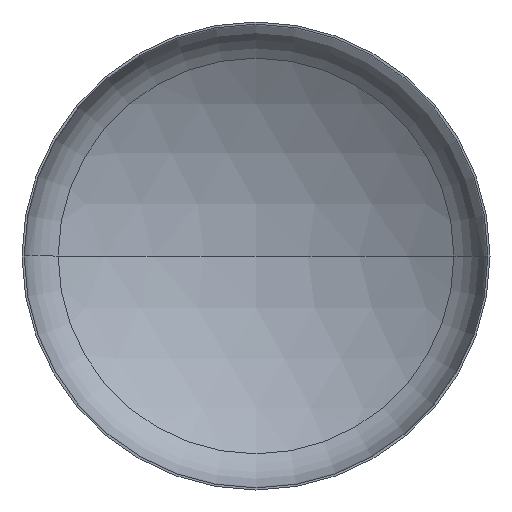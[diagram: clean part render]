
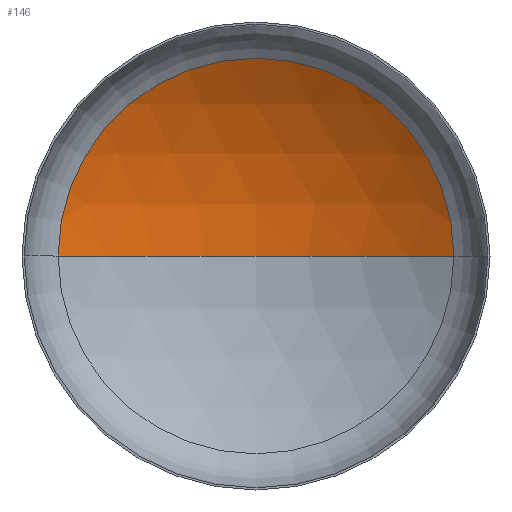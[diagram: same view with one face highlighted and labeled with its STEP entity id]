
A CAD part, front view. The second image highlights one B-rep face of the part: STEP entity #146.
In plain terms, the highlighted spherical face has radius 6000 mm.
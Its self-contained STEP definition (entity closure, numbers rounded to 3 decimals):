
#9 = CIRCLE ( 'NONE', #127, 3170.279 ) ;
#18 = ORIENTED_EDGE ( 'NONE', *, *, #196, .T. ) ;
#26 = ORIENTED_EDGE ( 'NONE', *, *, #199, .T. ) ;
#47 = VERTEX_POINT ( 'NONE', #198 ) ;
#49 = VERTEX_POINT ( 'NONE', #353 ) ;
#55 = DIRECTION ( 'NONE',  ( 0., 0., -1. ) ) ;
#61 = ORIENTED_EDGE ( 'NONE', *, *, #203, .F. ) ;
#77 = EDGE_LOOP ( 'NONE', ( #61, #26, #18 ) ) ;
#79 = CARTESIAN_POINT ( 'NONE',  ( 0., -4003.444, 0. ) ) ;
#91 = VERTEX_POINT ( 'NONE', #271 ) ;
#120 = AXIS2_PLACEMENT_3D ( 'NONE', #232, #389, #255 ) ;
#124 = AXIS2_PLACEMENT_3D ( 'NONE', #79, #297, #341 ) ;
#127 = AXIS2_PLACEMENT_3D ( 'NONE', #298, #136, #318 ) ;
#136 = DIRECTION ( 'NONE',  ( 0., -1., 0. ) ) ;
#146 = ADVANCED_FACE ( 'NONE', ( #377 ), #190, .F. ) ;
#150 = AXIS2_PLACEMENT_3D ( 'NONE', #220, #55, #218 ) ;
#190 = SPHERICAL_SURFACE ( 'NONE', #150, 6000. ) ;
#196 = EDGE_CURVE ( 'NONE', #47, #91, #9, .T. ) ;
#198 = CARTESIAN_POINT ( 'NONE',  ( 3170.279, 1090.604, 0. ) ) ;
#199 = EDGE_CURVE ( 'NONE', #49, #47, #303, .T. ) ;
#203 = EDGE_CURVE ( 'NONE', #49, #91, #296, .T. ) ;
#218 = DIRECTION ( 'NONE',  ( -1., 0., 0. ) ) ;
#220 = CARTESIAN_POINT ( 'NONE',  ( 0., -4003.444, 0. ) ) ;
#232 = CARTESIAN_POINT ( 'NONE',  ( 0., -4003.444, 0. ) ) ;
#255 = DIRECTION ( 'NONE',  ( 1., 0., 0. ) ) ;
#271 = CARTESIAN_POINT ( 'NONE',  ( -3170.279, 1090.604, 0. ) ) ;
#296 = CIRCLE ( 'NONE', #120, 6000. ) ;
#297 = DIRECTION ( 'NONE',  ( 0., 0., -1. ) ) ;
#298 = CARTESIAN_POINT ( 'NONE',  ( 0., 1090.604, 0. ) ) ;
#303 = CIRCLE ( 'NONE', #124, 6000. ) ;
#318 = DIRECTION ( 'NONE',  ( 1., 0., 0. ) ) ;
#341 = DIRECTION ( 'NONE',  ( -1., 0., 0. ) ) ;
#353 = CARTESIAN_POINT ( 'NONE',  ( 0., 1996.556, 0. ) ) ;
#377 = FACE_OUTER_BOUND ( 'NONE', #77, .T. ) ;
#389 = DIRECTION ( 'NONE',  ( 0., 0., 1. ) ) ;
